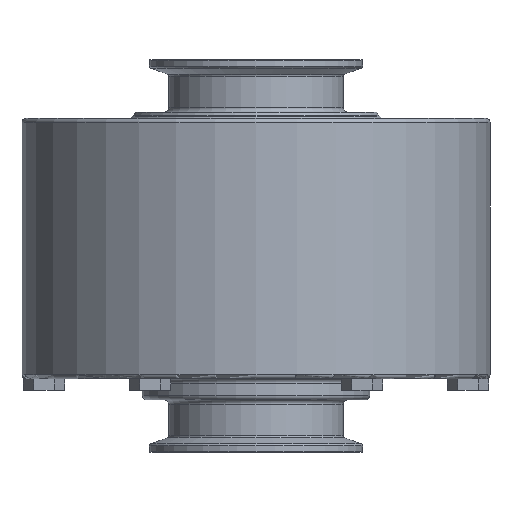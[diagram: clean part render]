
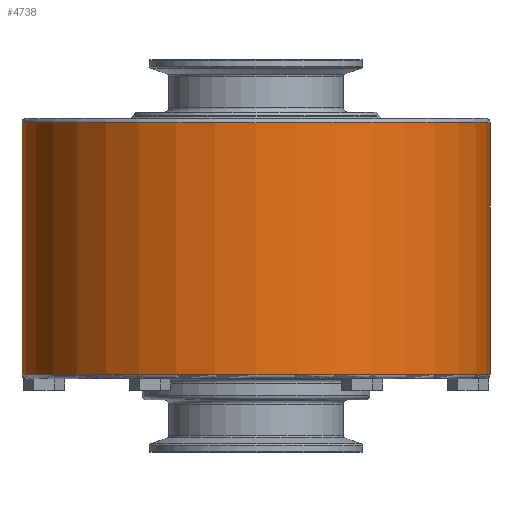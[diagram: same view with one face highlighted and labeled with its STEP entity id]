
A CAD part, front view. The second image highlights one B-rep face of the part: STEP entity #4738.
In plain terms, the highlighted cylindrical face has radius 84.938 mm (diameter 169.875 mm), a partial arc.
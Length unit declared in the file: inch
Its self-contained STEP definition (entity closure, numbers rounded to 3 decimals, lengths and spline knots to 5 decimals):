
#86 = FACE_OUTER_BOUND ( 'NONE', #4007, .T. ) ;
#88 = DIRECTION ( 'NONE',  ( 0., 0., 1. ) ) ;
#90 = CYLINDRICAL_SURFACE ( 'NONE', #490, 3.344 ) ;
#91 = CARTESIAN_POINT ( 'NONE',  ( 0., 0., 0.93979 ) ) ;
#93 = DIRECTION ( 'NONE',  ( 1., 0., 0. ) ) ;
#490 = AXIS2_PLACEMENT_3D ( 'NONE', #91, #88, #93 ) ;
#1284 = VECTOR ( 'NONE', #5197, 39.37008 ) ;
#1286 = VECTOR ( 'NONE', #5201, 39.37008 ) ;
#1584 = CIRCLE ( 'NONE', #1642, 3.344 ) ;
#1593 = AXIS2_PLACEMENT_3D ( 'NONE', #2799, #2800, #2801 ) ;
#1642 = AXIS2_PLACEMENT_3D ( 'NONE', #2802, #2803, #2804 ) ;
#1648 = CIRCLE ( 'NONE', #1593, 3.344 ) ;
#2799 = CARTESIAN_POINT ( 'NONE',  ( 0., 0., -4.5 ) ) ;
#2800 = DIRECTION ( 'NONE',  ( 0., 0., 1. ) ) ;
#2801 = DIRECTION ( 'NONE',  ( 1., 0., 0. ) ) ;
#2802 = CARTESIAN_POINT ( 'NONE',  ( 0., 0., -0.9 ) ) ;
#2803 = DIRECTION ( 'NONE',  ( 0., 0., -1. ) ) ;
#2804 = DIRECTION ( 'NONE',  ( -1., 0., 0. ) ) ;
#2909 = EDGE_CURVE ( 'NONE', #3619, #3618, #1648, .T. ) ;
#2910 = EDGE_CURVE ( 'NONE', #3629, #3628, #1584, .T. ) ;
#3618 = VERTEX_POINT ( 'NONE', #5098 ) ;
#3619 = VERTEX_POINT ( 'NONE', #5099 ) ;
#3628 = VERTEX_POINT ( 'NONE', #5108 ) ;
#3629 = VERTEX_POINT ( 'NONE', #5109 ) ;
#4007 = EDGE_LOOP ( 'NONE', ( #4096, #4097, #4098, #4099 ) ) ;
#4096 = ORIENTED_EDGE ( 'NONE', *, *, #4819, .F. ) ;
#4097 = ORIENTED_EDGE ( 'NONE', *, *, #2909, .T. ) ;
#4098 = ORIENTED_EDGE ( 'NONE', *, *, #4818, .T. ) ;
#4099 = ORIENTED_EDGE ( 'NONE', *, *, #2910, .T. ) ;
#4738 = ADVANCED_FACE ( 'NONE', ( #86 ), #90, .T. ) ;
#4818 = EDGE_CURVE ( 'NONE', #3618, #3629, #5186, .T. ) ;
#4819 = EDGE_CURVE ( 'NONE', #3619, #3628, #5198, .T. ) ;
#5098 = CARTESIAN_POINT ( 'NONE',  ( 3.344, 0., -4.5 ) ) ;
#5099 = CARTESIAN_POINT ( 'NONE',  ( -3.344, 0., -4.5 ) ) ;
#5108 = CARTESIAN_POINT ( 'NONE',  ( -3.344, 0., -0.9 ) ) ;
#5109 = CARTESIAN_POINT ( 'NONE',  ( 3.344, 0., -0.9 ) ) ;
#5185 = CARTESIAN_POINT ( 'NONE',  ( 3.344, 0., 0.93979 ) ) ;
#5186 = LINE ( 'NONE', #5185, #1284 ) ;
#5197 = DIRECTION ( 'NONE',  ( 0., 0., 1. ) ) ;
#5198 = LINE ( 'NONE', #5200, #1286 ) ;
#5200 = CARTESIAN_POINT ( 'NONE',  ( -3.344, 0., 0.93979 ) ) ;
#5201 = DIRECTION ( 'NONE',  ( 0., 0., 1. ) ) ;
